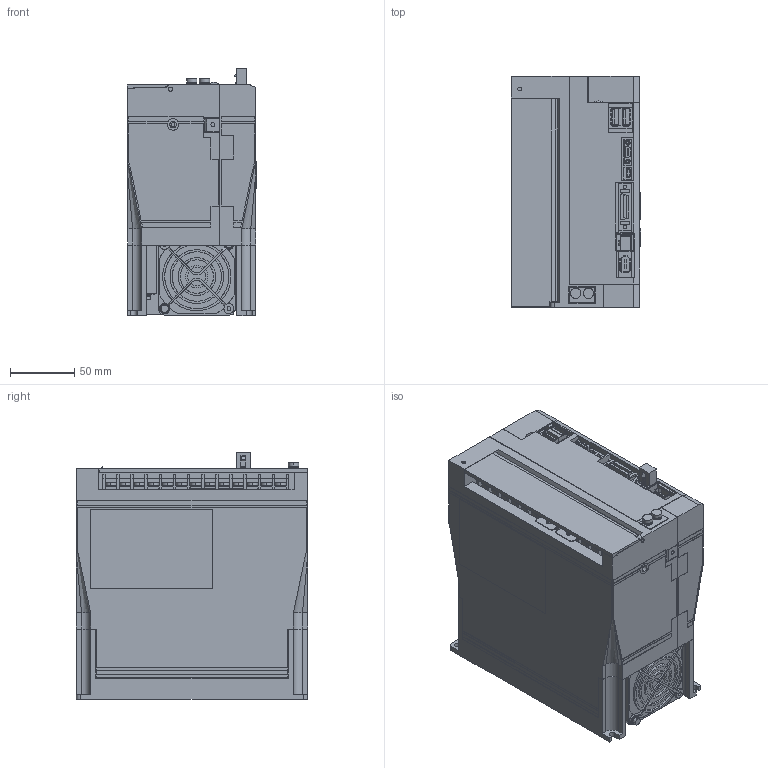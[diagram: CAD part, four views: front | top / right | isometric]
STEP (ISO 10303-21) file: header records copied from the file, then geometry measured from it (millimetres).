
FILE_DESCRIPTION (( 'STEP AP203' ), '1' );
FILE_NAME ('sgdv_180a1_a.STEP', '2008-06-17T08:18:58', ( 'T' ), ( 'T' ), 'SwSTEP 2.0', 'SolidWorks 2006052', '' );
FILE_SCHEMA (( 'CONFIG_CONTROL_DESIGN' ));
Products named in the file (7): sgdv_180a1_a_cover; sgdv_180a1_a_base; sgdv_180a1_a_cover2; sgdv_180a1_a; sgdv_180a1_a_connector; sgdv_180a1_a_cover3; sgdv_180a1_a_terminal
Assembly tree (8 placements, depth 2):
  sgdv_180a1_a
    sgdv_180a1_a_terminal  x2
    sgdv_180a1_a_cover2  x2
    sgdv_180a1_a_base
    sgdv_180a1_a_connector
    sgdv_180a1_a_cover
    sgdv_180a1_a_cover3
Bounding box: 100.5 x 180 x 193 mm (x, y, z)
Volume: 2891650.9 mm3; surface area: 239761.9 mm2
Topology: 8 solids, 8 shells, 2047 faces, 5483 edges, 3598 vertices
Faces by surface type: plane 1720, cylinder 306, cone 12, bspline 8, sphere 1
Entity records: 63058 total; most frequent: CARTESIAN_POINT 11440, ORIENTED_EDGE 10750, DIRECTION 10061, EDGE_CURVE 5375, VECTOR 4627, LINE 4627, VERTEX_POINT 3526, AXIS2_PLACEMENT_3D 2717
